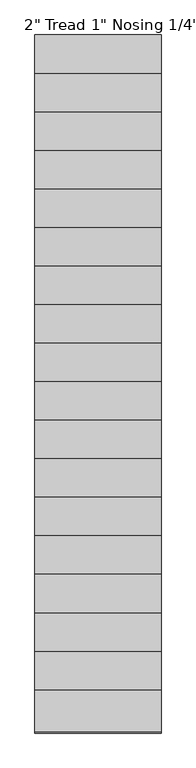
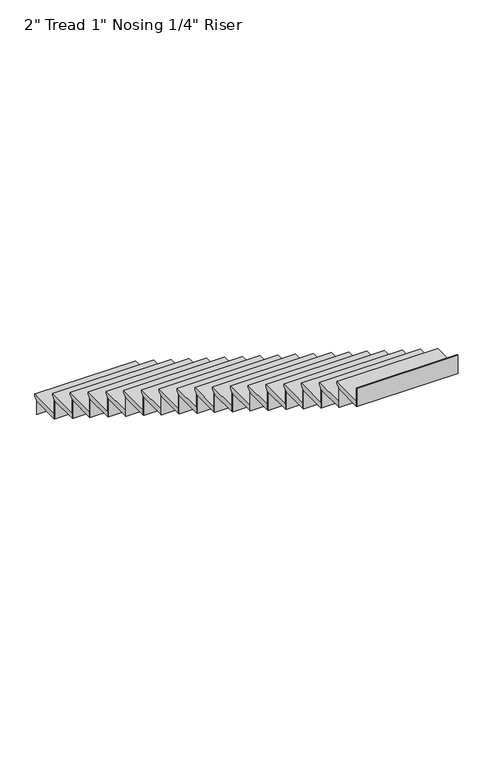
"""IFC4 building model written with IfcOpenShell, lengths in millimetres: stair flight geometry."""

from ifc_helpers import new_model, si_unit, frame, origin, origin_with_axes, place, context, project, spatial, polyline, outline, extrude, source, transform, mapped, element, save


def stair_flight_92ed7c1f(model_context):
    return source(origin(), model_context, "Body", "SweptSolid", [
        extrude(outline(polyline([(4209.6811943, 176.4631579), (4514.4811943, 176.4631579), (4514.4811943, 157.4131579), (4489.0811943, 132.0131579), (4489.0811943, 125.6631579), (4209.6811943, 125.6631579), (4209.6811943, 176.4631579)])), frame((-22016.2477721, 0.0, 0.0), z_axis=(1.0, 0.0, 0.0), x_axis=(0.0, 1.0, 0.0)), (0.0, 0.0, 1.0), 914.4),
        extrude(outline(polyline([(-22016.2477721, 4482.7311943), (-22016.2477721, 4489.0811943), (-21101.8477721, 4489.0811943), (-21101.8477721, 4482.7311943), (-22016.2477721, 4482.7311943)])), origin_with_axes(), (0.0, 0.0, 1.0), 125.6631579),
        extrude(outline(polyline([(-22016.2477721, 4203.3311943), (-22016.2477721, 4209.6811943), (-21101.8477721, 4209.6811943), (-21101.8477721, 4203.3311943), (-22016.2477721, 4203.3311943)])), frame((0.0, 0.0, 125.6631579), z_axis=(0.0, 0.0, 1.0), x_axis=(1.0, 0.0, 0.0)), (0.0, 0.0, 1.0), 176.4631579),
        extrude(outline(polyline([(3930.2811943, 352.9263158), (4235.0811943, 352.9263158), (4235.0811943, 333.8763158), (4209.6811943, 308.4763158), (4209.6811943, 302.1263158), (3930.2811943, 302.1263158), (3930.2811943, 352.9263158)])), frame((-22016.2477721, 0.0, 0.0), z_axis=(1.0, 0.0, 0.0), x_axis=(0.0, 1.0, 0.0)), (0.0, 0.0, 1.0), 914.4),
        extrude(outline(polyline([(-22016.2477721, 3923.9311943), (-22016.2477721, 3930.2811943), (-21101.8477721, 3930.2811943), (-21101.8477721, 3923.9311943), (-22016.2477721, 3923.9311943)])), frame((0.0, 0.0, 302.1263158), z_axis=(0.0, 0.0, 1.0), x_axis=(1.0, 0.0, 0.0)), (0.0, 0.0, 1.0), 176.4631579),
        extrude(outline(polyline([(3650.8811943, 529.3894737), (3955.6811943, 529.3894737), (3955.6811943, 510.3394737), (3930.2811943, 484.9394737), (3930.2811943, 478.5894737), (3650.8811943, 478.5894737), (3650.8811943, 529.3894737)])), frame((-22016.2477721, 0.0, 0.0), z_axis=(1.0, 0.0, 0.0), x_axis=(0.0, 1.0, 0.0)), (0.0, 0.0, 1.0), 914.4),
        extrude(outline(polyline([(-22016.2477721, 3644.5311943), (-22016.2477721, 3650.8811943), (-21101.8477721, 3650.8811943), (-21101.8477721, 3644.5311943), (-22016.2477721, 3644.5311943)])), frame((0.0, 0.0, 478.5894737), z_axis=(0.0, 0.0, 1.0), x_axis=(1.0, 0.0, 0.0)), (0.0, 0.0, 1.0), 176.4631579),
        extrude(outline(polyline([(3371.4811943, 705.8526316), (3676.2811943, 705.8526316), (3676.2811943, 686.8026316), (3650.8811943, 661.4026316), (3650.8811943, 655.0526316), (3371.4811943, 655.0526316), (3371.4811943, 705.8526316)])), frame((-22016.2477721, 0.0, 0.0), z_axis=(1.0, 0.0, 0.0), x_axis=(0.0, 1.0, 0.0)), (0.0, 0.0, 1.0), 914.4),
        extrude(outline(polyline([(-22016.2477721, 3365.1311943), (-22016.2477721, 3371.4811943), (-21101.8477721, 3371.4811943), (-21101.8477721, 3365.1311943), (-22016.2477721, 3365.1311943)])), frame((0.0, 0.0, 655.0526316), z_axis=(0.0, 0.0, 1.0), x_axis=(1.0, 0.0, 0.0)), (0.0, 0.0, 1.0), 176.4631579),
        extrude(outline(polyline([(3092.0811943, 882.3157895), (3396.8811943, 882.3157895), (3396.8811943, 863.2657895), (3371.4811943, 837.8657895), (3371.4811943, 831.5157895), (3092.0811943, 831.5157895), (3092.0811943, 882.3157895)])), frame((-22016.2477721, 0.0, 0.0), z_axis=(1.0, 0.0, 0.0), x_axis=(0.0, 1.0, 0.0)), (0.0, 0.0, 1.0), 914.4),
        extrude(outline(polyline([(-22016.2477721, 3085.7311943), (-22016.2477721, 3092.0811943), (-21101.8477721, 3092.0811943), (-21101.8477721, 3085.7311943), (-22016.2477721, 3085.7311943)])), frame((0.0, 0.0, 831.5157895), z_axis=(0.0, 0.0, 1.0), x_axis=(1.0, 0.0, 0.0)), (0.0, 0.0, 1.0), 176.4631579),
        extrude(outline(polyline([(2812.6811943, 1058.7789474), (3117.4811943, 1058.7789474), (3117.4811943, 1039.7289474), (3092.0811943, 1014.3289474), (3092.0811943, 1007.9789474), (2812.6811943, 1007.9789474), (2812.6811943, 1058.7789474)])), frame((-22016.2477721, 0.0, 0.0), z_axis=(1.0, 0.0, 0.0), x_axis=(0.0, 1.0, 0.0)), (0.0, 0.0, 1.0), 914.4),
        extrude(outline(polyline([(-22016.2477721, 2806.3311943), (-22016.2477721, 2812.6811943), (-21101.8477721, 2812.6811943), (-21101.8477721, 2806.3311943), (-22016.2477721, 2806.3311943)])), frame((0.0, 0.0, 1007.9789474), z_axis=(0.0, 0.0, 1.0), x_axis=(1.0, 0.0, 0.0)), (0.0, 0.0, 1.0), 176.4631579),
        extrude(outline(polyline([(2533.2811943, 1235.2421053), (2838.0811943, 1235.2421053), (2838.0811943, 1216.1921053), (2812.6811943, 1190.7921053), (2812.6811943, 1184.4421053), (2533.2811943, 1184.4421053), (2533.2811943, 1235.2421053)])), frame((-22016.2477721, 0.0, 0.0), z_axis=(1.0, 0.0, 0.0), x_axis=(0.0, 1.0, 0.0)), (0.0, 0.0, 1.0), 914.4),
        extrude(outline(polyline([(-22016.2477721, 2526.9311943), (-22016.2477721, 2533.2811943), (-21101.8477721, 2533.2811943), (-21101.8477721, 2526.9311943), (-22016.2477721, 2526.9311943)])), frame((0.0, 0.0, 1184.4421053), z_axis=(0.0, 0.0, 1.0), x_axis=(1.0, 0.0, 0.0)), (0.0, 0.0, 1.0), 176.4631579),
        extrude(outline(polyline([(2253.8811943, 1411.7052632), (2558.6811943, 1411.7052632), (2558.6811943, 1392.6552632), (2533.2811943, 1367.2552632), (2533.2811943, 1360.9052632), (2253.8811943, 1360.9052632), (2253.8811943, 1411.7052632)])), frame((-22016.2477721, 0.0, 0.0), z_axis=(1.0, 0.0, 0.0), x_axis=(0.0, 1.0, 0.0)), (0.0, 0.0, 1.0), 914.4),
        extrude(outline(polyline([(-22016.2477721, 2247.5311943), (-22016.2477721, 2253.8811943), (-21101.8477721, 2253.8811943), (-21101.8477721, 2247.5311943), (-22016.2477721, 2247.5311943)])), frame((0.0, 0.0, 1360.9052632), z_axis=(0.0, 0.0, 1.0), x_axis=(1.0, 0.0, 0.0)), (0.0, 0.0, 1.0), 176.4631579),
        extrude(outline(polyline([(1974.4811943, 1588.1684211), (2279.2811943, 1588.1684211), (2279.2811943, 1569.1184211), (2253.8811943, 1543.7184211), (2253.8811943, 1537.3684211), (1974.4811943, 1537.3684211), (1974.4811943, 1588.1684211)])), frame((-22016.2477721, 0.0, 0.0), z_axis=(1.0, 0.0, 0.0), x_axis=(0.0, 1.0, 0.0)), (0.0, 0.0, 1.0), 914.4),
        extrude(outline(polyline([(-22016.2477721, 1968.1311943), (-22016.2477721, 1974.4811943), (-21101.8477721, 1974.4811943), (-21101.8477721, 1968.1311943), (-22016.2477721, 1968.1311943)])), frame((0.0, 0.0, 1537.3684211), z_axis=(0.0, 0.0, 1.0), x_axis=(1.0, 0.0, 0.0)), (0.0, 0.0, 1.0), 176.4631579),
        extrude(outline(polyline([(1695.0811943, 1764.6315789), (1999.8811943, 1764.6315789), (1999.8811943, 1745.5815789), (1974.4811943, 1720.1815789), (1974.4811943, 1713.8315789), (1695.0811943, 1713.8315789), (1695.0811943, 1764.6315789)])), frame((-22016.2477721, 0.0, 0.0), z_axis=(1.0, 0.0, 0.0), x_axis=(0.0, 1.0, 0.0)), (0.0, 0.0, 1.0), 914.4),
        extrude(outline(polyline([(-22016.2477721, 1688.7311943), (-22016.2477721, 1695.0811943), (-21101.8477721, 1695.0811943), (-21101.8477721, 1688.7311943), (-22016.2477721, 1688.7311943)])), frame((0.0, 0.0, 1713.8315789), z_axis=(0.0, 0.0, 1.0), x_axis=(1.0, 0.0, 0.0)), (0.0, 0.0, 1.0), 176.4631579),
        extrude(outline(polyline([(1415.6811943, 1941.0947368), (1720.4811943, 1941.0947368), (1720.4811943, 1922.0447368), (1695.0811943, 1896.6447368), (1695.0811943, 1890.2947368), (1415.6811943, 1890.2947368), (1415.6811943, 1941.0947368)])), frame((-22016.2477721, 0.0, 0.0), z_axis=(1.0, 0.0, 0.0), x_axis=(0.0, 1.0, 0.0)), (0.0, 0.0, 1.0), 914.4),
        extrude(outline(polyline([(-22016.2477721, 1409.3311943), (-22016.2477721, 1415.6811943), (-21101.8477721, 1415.6811943), (-21101.8477721, 1409.3311943), (-22016.2477721, 1409.3311943)])), frame((0.0, 0.0, 1890.2947368), z_axis=(0.0, 0.0, 1.0), x_axis=(1.0, 0.0, 0.0)), (0.0, 0.0, 1.0), 176.4631579),
        extrude(outline(polyline([(1136.2811943, 2117.5578947), (1441.0811943, 2117.5578947), (1441.0811943, 2098.5078947), (1415.6811943, 2073.1078947), (1415.6811943, 2066.7578947), (1136.2811943, 2066.7578947), (1136.2811943, 2117.5578947)])), frame((-22016.2477721, 0.0, 0.0), z_axis=(1.0, 0.0, 0.0), x_axis=(0.0, 1.0, 0.0)), (0.0, 0.0, 1.0), 914.4),
        extrude(outline(polyline([(-22016.2477721, 1129.9311943), (-22016.2477721, 1136.2811943), (-21101.8477721, 1136.2811943), (-21101.8477721, 1129.9311943), (-22016.2477721, 1129.9311943)])), frame((0.0, 0.0, 2066.7578947), z_axis=(0.0, 0.0, 1.0), x_axis=(1.0, 0.0, 0.0)), (0.0, 0.0, 1.0), 176.4631579),
        extrude(outline(polyline([(856.8811943, 2294.0210526), (1161.6811943, 2294.0210526), (1161.6811943, 2274.9710526), (1136.2811943, 2249.5710526), (1136.2811943, 2243.2210526), (856.8811943, 2243.2210526), (856.8811943, 2294.0210526)])), frame((-22016.2477721, 0.0, 0.0), z_axis=(1.0, 0.0, 0.0), x_axis=(0.0, 1.0, 0.0)), (0.0, 0.0, 1.0), 914.4),
        extrude(outline(polyline([(-22016.2477721, 850.5311943), (-22016.2477721, 856.8811943), (-21101.8477721, 856.8811943), (-21101.8477721, 850.5311943), (-22016.2477721, 850.5311943)])), frame((0.0, 0.0, 2243.2210526), z_axis=(0.0, 0.0, 1.0), x_axis=(1.0, 0.0, 0.0)), (0.0, 0.0, 1.0), 176.4631579),
        extrude(outline(polyline([(577.4811943, 2470.4842105), (882.2811943, 2470.4842105), (882.2811943, 2451.4342105), (856.8811943, 2426.0342105), (856.8811943, 2419.6842105), (577.4811943, 2419.6842105), (577.4811943, 2470.4842105)])), frame((-22016.2477721, 0.0, 0.0), z_axis=(1.0, 0.0, 0.0), x_axis=(0.0, 1.0, 0.0)), (0.0, 0.0, 1.0), 914.4),
        extrude(outline(polyline([(-22016.2477721, 571.1311943), (-22016.2477721, 577.4811943), (-21101.8477721, 577.4811943), (-21101.8477721, 571.1311943), (-22016.2477721, 571.1311943)])), frame((0.0, 0.0, 2419.6842105), z_axis=(0.0, 0.0, 1.0), x_axis=(1.0, 0.0, 0.0)), (0.0, 0.0, 1.0), 176.4631579),
        extrude(outline(polyline([(298.0811943, 2646.9473684), (602.8811943, 2646.9473684), (602.8811943, 2627.8973684), (577.4811943, 2602.4973684), (577.4811943, 2596.1473684), (298.0811943, 2596.1473684), (298.0811943, 2646.9473684)])), frame((-22016.2477721, 0.0, 0.0), z_axis=(1.0, 0.0, 0.0), x_axis=(0.0, 1.0, 0.0)), (0.0, 0.0, 1.0), 914.4),
        extrude(outline(polyline([(-22016.2477721, 291.7311943), (-22016.2477721, 298.0811943), (-21101.8477721, 298.0811943), (-21101.8477721, 291.7311943), (-22016.2477721, 291.7311943)])), frame((0.0, 0.0, 2596.1473684), z_axis=(0.0, 0.0, 1.0), x_axis=(1.0, 0.0, 0.0)), (0.0, 0.0, 1.0), 176.4631579),
        extrude(outline(polyline([(18.6811943, 2823.4105263), (323.4811943, 2823.4105263), (323.4811943, 2804.3605263), (298.0811943, 2778.9605263), (298.0811943, 2772.6105263), (18.6811943, 2772.6105263), (18.6811943, 2823.4105263)])), frame((-22016.2477721, 0.0, 0.0), z_axis=(1.0, 0.0, 0.0), x_axis=(0.0, 1.0, 0.0)), (0.0, 0.0, 1.0), 914.4),
        extrude(outline(polyline([(-22016.2477721, 12.3311943), (-22016.2477721, 18.6811943), (-21101.8477721, 18.6811943), (-21101.8477721, 12.3311943), (-22016.2477721, 12.3311943)])), frame((0.0, 0.0, 2772.6105263), z_axis=(0.0, 0.0, 1.0), x_axis=(1.0, 0.0, 0.0)), (0.0, 0.0, 1.0), 176.4631579),
        extrude(outline(polyline([(-260.7188057, 2999.8736842), (44.0811943, 2999.8736842), (44.0811943, 2980.8236842), (18.6811943, 2955.4236842), (18.6811943, 2949.0736842), (-260.7188057, 2949.0736842), (-260.7188057, 2999.8736842)])), frame((-22016.2477721, 0.0, 0.0), z_axis=(1.0, 0.0, 0.0), x_axis=(0.0, 1.0, 0.0)), (0.0, 0.0, 1.0), 914.4),
        extrude(outline(polyline([(-22016.2477721, -267.0688057), (-22016.2477721, -260.7188057), (-21101.8477721, -260.7188057), (-21101.8477721, -267.0688057), (-22016.2477721, -267.0688057)])), frame((0.0, 0.0, 2949.0736842), z_axis=(0.0, 0.0, 1.0), x_axis=(1.0, 0.0, 0.0)), (0.0, 0.0, 1.0), 176.4631579),
        extrude(outline(polyline([(-22016.2477721, -546.4688057), (-22016.2477721, -540.1188057), (-21101.8477721, -540.1188057), (-21101.8477721, -546.4688057), (-22016.2477721, -546.4688057)])), frame((0.0, 0.0, 3125.5368421), z_axis=(0.0, 0.0, 1.0), x_axis=(1.0, 0.0, 0.0)), (0.0, 0.0, 1.0), 176.4631579),
        extrude(outline(polyline([(-540.1188057, 3176.3368421), (-235.3188057, 3176.3368421), (-235.3188057, 3157.2868421), (-260.7188057, 3131.8868421), (-260.7188057, 3125.5368421), (-540.1188057, 3125.5368421), (-540.1188057, 3176.3368421)])), frame((-22016.2477721, 0.0, 0.0), z_axis=(1.0, 0.0, 0.0), x_axis=(0.0, 1.0, 0.0)), (0.0, 0.0, 1.0), 914.4),
    ])


if __name__ == "__main__":
    model = new_model("IFC4")
    model_context = context("Model", 3, world=origin())
    ifc_project = project(units=[si_unit("LENGTHUNIT", "METRE", prefix="MILLI")], contexts=[model_context])
    site = spatial("IfcSite", under=ifc_project)
    building = spatial("IfcBuilding", under=site)
    placement = place(None, origin())
    stair_flight_shape = stair_flight_92ed7c1f(model_context)
    element("IfcStairFlight", 1, ObjectType="2\" Tread 1\" Nosing 1/4\" Riser", at=placement, inside=building, context=model_context, shape_type="MappedRepresentation", body=[
        mapped(stair_flight_shape, transform((0.0, 0.0, 0.0), x_axis=(1.0, 0.0, 0.0), y_axis=(0.0, 1.0, 0.0), z_axis=(0.0, 0.0, 1.0))),
    ])
    save(model, "model.ifc")
